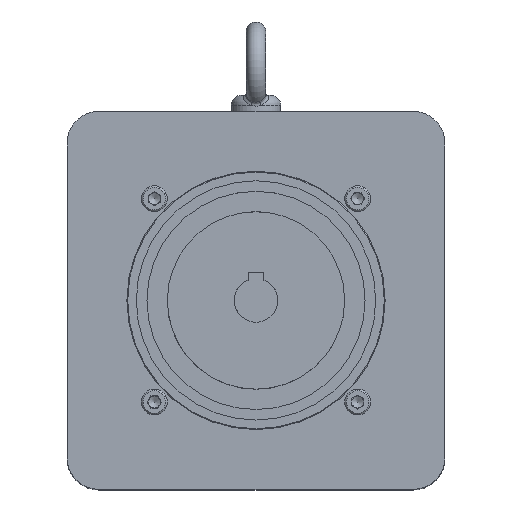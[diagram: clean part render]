
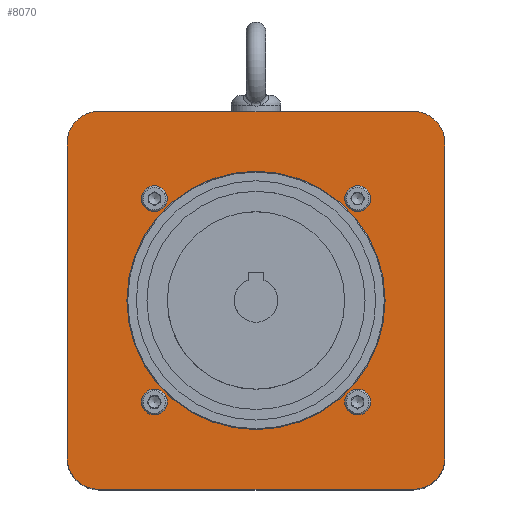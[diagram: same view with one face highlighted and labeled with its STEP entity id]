
A CAD part, top view. The second image highlights one B-rep face of the part: STEP entity #8070.
In plain terms, the highlighted planar face has unit normal (0, 0, 1).
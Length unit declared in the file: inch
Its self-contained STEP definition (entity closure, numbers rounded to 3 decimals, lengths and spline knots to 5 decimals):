
#436 = ORIENTED_EDGE ( 'NONE', *, *, #6717, .F. ) ;
#455 = DIRECTION ( 'NONE',  ( 0., 0., -1. ) ) ;
#689 = DIRECTION ( 'NONE',  ( 0., 0., -1. ) ) ;
#1022 = CARTESIAN_POINT ( 'NONE',  ( 3.75, -3.125, 14.3769 ) ) ;
#1066 = CIRCLE ( 'NONE', #11749, 2.5635 ) ;
#1155 = ORIENTED_EDGE ( 'NONE', *, *, #12031, .F. ) ;
#1205 = DIRECTION ( 'NONE',  ( -1., 0., 0. ) ) ;
#1606 = CARTESIAN_POINT ( 'NONE',  ( 3.125, 3.75, 14.3769 ) ) ;
#1687 = CARTESIAN_POINT ( 'NONE',  ( -3.125, -3.125, 14.3769 ) ) ;
#1702 = LINE ( 'NONE', #4293, #16422 ) ;
#1787 = FACE_BOUND ( 'NONE', #9494, .T. ) ;
#1898 = CARTESIAN_POINT ( 'NONE',  ( -2.01833, 2.01833, 14.3769 ) ) ;
#1994 = DIRECTION ( 'NONE',  ( 0., 1., 0. ) ) ;
#2380 = CARTESIAN_POINT ( 'NONE',  ( -3.75, -3.125, 14.3769 ) ) ;
#2421 = EDGE_CURVE ( 'NONE', #15767, #15767, #9370, .T. ) ;
#2440 = CARTESIAN_POINT ( 'NONE',  ( -3.125, 3.125, 14.3769 ) ) ;
#2465 = EDGE_LOOP ( 'NONE', ( #6272, #436, #1155, #9198, #4838, #3238, #8516, #6602 ) ) ;
#2497 = VERTEX_POINT ( 'NONE', #1022 ) ;
#2680 = AXIS2_PLACEMENT_3D ( 'NONE', #9768, #9677, #8155 ) ;
#2829 = VERTEX_POINT ( 'NONE', #5113 ) ;
#2923 = EDGE_CURVE ( 'NONE', #12626, #12626, #10909, .T. ) ;
#2946 = AXIS2_PLACEMENT_3D ( 'NONE', #1898, #9250, #7727 ) ;
#2962 = AXIS2_PLACEMENT_3D ( 'NONE', #17532, #5961, #12939 ) ;
#3073 = VERTEX_POINT ( 'NONE', #13696 ) ;
#3153 = AXIS2_PLACEMENT_3D ( 'NONE', #14281, #4051, #15706 ) ;
#3215 = LINE ( 'NONE', #9057, #16087 ) ;
#3238 = ORIENTED_EDGE ( 'NONE', *, *, #7092, .F. ) ;
#3323 = EDGE_CURVE ( 'NONE', #11682, #4024, #6035, .T. ) ;
#4024 = VERTEX_POINT ( 'NONE', #15317 ) ;
#4051 = DIRECTION ( 'NONE',  ( 0., 0., -1. ) ) ;
#4270 = LINE ( 'NONE', #17459, #8520 ) ;
#4293 = CARTESIAN_POINT ( 'NONE',  ( 3.125, -3.75, 14.3769 ) ) ;
#4419 = EDGE_CURVE ( 'NONE', #5725, #5725, #8418, .T. ) ;
#4420 = ORIENTED_EDGE ( 'NONE', *, *, #4419, .T. ) ;
#4504 = ORIENTED_EDGE ( 'NONE', *, *, #14582, .F. ) ;
#4651 = FACE_OUTER_BOUND ( 'NONE', #2465, .T. ) ;
#4659 = DIRECTION ( 'NONE',  ( 0., 1., 0. ) ) ;
#4836 = DIRECTION ( 'NONE',  ( 0., 0., 1. ) ) ;
#4838 = ORIENTED_EDGE ( 'NONE', *, *, #3323, .F. ) ;
#5113 = CARTESIAN_POINT ( 'NONE',  ( -3.125, -3.75, 14.3769 ) ) ;
#5422 = VECTOR ( 'NONE', #7021, 39.37008 ) ;
#5637 = AXIS2_PLACEMENT_3D ( 'NONE', #13783, #689, #6231 ) ;
#5725 = VERTEX_POINT ( 'NONE', #11662 ) ;
#5770 = CARTESIAN_POINT ( 'NONE',  ( 3.75, 3.125, 14.3769 ) ) ;
#5798 = FACE_BOUND ( 'NONE', #16758, .T. ) ;
#5831 = EDGE_CURVE ( 'NONE', #16306, #3073, #3215, .T. ) ;
#5836 = VERTEX_POINT ( 'NONE', #18744 ) ;
#5876 = CARTESIAN_POINT ( 'NONE',  ( 3.125, -3.75, 14.3769 ) ) ;
#5961 = DIRECTION ( 'NONE',  ( 0., 0., -1. ) ) ;
#6035 = CIRCLE ( 'NONE', #2680, 0.625 ) ;
#6231 = DIRECTION ( 'NONE',  ( -1., 0., 0. ) ) ;
#6272 = ORIENTED_EDGE ( 'NONE', *, *, #14780, .F. ) ;
#6283 = DIRECTION ( 'NONE',  ( 0., -1., 0. ) ) ;
#6364 = CIRCLE ( 'NONE', #8818, 0.625 ) ;
#6602 = ORIENTED_EDGE ( 'NONE', *, *, #5831, .F. ) ;
#6681 = DIRECTION ( 'NONE',  ( 0., 0., -1. ) ) ;
#6717 = EDGE_CURVE ( 'NONE', #15360, #2829, #1702, .T. ) ;
#7021 = DIRECTION ( 'NONE',  ( 0., -1., 0. ) ) ;
#7092 = EDGE_CURVE ( 'NONE', #13122, #11682, #4270, .T. ) ;
#7421 = EDGE_CURVE ( 'NONE', #4024, #2497, #10073, .T. ) ;
#7475 = CIRCLE ( 'NONE', #5637, 0.625 ) ;
#7491 = AXIS2_PLACEMENT_3D ( 'NONE', #7723, #455, #6283 ) ;
#7616 = DIRECTION ( 'NONE',  ( 1., 0., 0. ) ) ;
#7723 = CARTESIAN_POINT ( 'NONE',  ( -2.01833, -2.01833, 14.3769 ) ) ;
#7727 = DIRECTION ( 'NONE',  ( -1., 0., 0. ) ) ;
#8070 = ADVANCED_FACE ( 'NONE', ( #1787, #17467, #14778, #10473, #5798, #4651 ), #12012, .F. ) ;
#8155 = DIRECTION ( 'NONE',  ( -1., 0., 0. ) ) ;
#8278 = DIRECTION ( 'NONE',  ( 0., 0., -1. ) ) ;
#8317 = CARTESIAN_POINT ( 'NONE',  ( 2.17583, -2.01833, 14.3769 ) ) ;
#8418 = CIRCLE ( 'NONE', #7491, 0.1575 ) ;
#8467 = EDGE_CURVE ( 'NONE', #3073, #13122, #6364, .T. ) ;
#8516 = ORIENTED_EDGE ( 'NONE', *, *, #8467, .F. ) ;
#8520 = VECTOR ( 'NONE', #15921, 39.37008 ) ;
#8818 = AXIS2_PLACEMENT_3D ( 'NONE', #2440, #8278, #1205 ) ;
#9057 = CARTESIAN_POINT ( 'NONE',  ( -3.75, -3.125, 14.3769 ) ) ;
#9198 = ORIENTED_EDGE ( 'NONE', *, *, #7421, .F. ) ;
#9250 = DIRECTION ( 'NONE',  ( 0., 0., -1. ) ) ;
#9370 = CIRCLE ( 'NONE', #2946, 0.1575 ) ;
#9494 = EDGE_LOOP ( 'NONE', ( #15722 ) ) ;
#9677 = DIRECTION ( 'NONE',  ( 0., 0., -1. ) ) ;
#9707 = AXIS2_PLACEMENT_3D ( 'NONE', #1687, #16300, #16210 ) ;
#9768 = CARTESIAN_POINT ( 'NONE',  ( 3.125, 3.125, 14.3769 ) ) ;
#10023 = DIRECTION ( 'NONE',  ( -1., 0., 0. ) ) ;
#10073 = LINE ( 'NONE', #5770, #5422 ) ;
#10473 = FACE_BOUND ( 'NONE', #11053, .T. ) ;
#10699 = CARTESIAN_POINT ( 'NONE',  ( 2.01833, 2.01833, 14.3769 ) ) ;
#10790 = VERTEX_POINT ( 'NONE', #13842 ) ;
#10909 = CIRCLE ( 'NONE', #2962, 0.1575 ) ;
#10940 = EDGE_LOOP ( 'NONE', ( #4420 ) ) ;
#11053 = EDGE_LOOP ( 'NONE', ( #12901 ) ) ;
#11408 = CIRCLE ( 'NONE', #3153, 0.625 ) ;
#11662 = CARTESIAN_POINT ( 'NONE',  ( -2.01833, -2.17583, 14.3769 ) ) ;
#11682 = VERTEX_POINT ( 'NONE', #1606 ) ;
#11749 = AXIS2_PLACEMENT_3D ( 'NONE', #15050, #4836, #7616 ) ;
#12012 = PLANE ( 'NONE',  #9707 ) ;
#12031 = EDGE_CURVE ( 'NONE', #2497, #15360, #11408, .T. ) ;
#12289 = EDGE_LOOP ( 'NONE', ( #15389 ) ) ;
#12312 = CARTESIAN_POINT ( 'NONE',  ( -3.125, 3.75, 14.3769 ) ) ;
#12626 = VERTEX_POINT ( 'NONE', #8317 ) ;
#12901 = ORIENTED_EDGE ( 'NONE', *, *, #2421, .T. ) ;
#12939 = DIRECTION ( 'NONE',  ( 1., 0., 0. ) ) ;
#13122 = VERTEX_POINT ( 'NONE', #12312 ) ;
#13135 = CIRCLE ( 'NONE', #18022, 0.1575 ) ;
#13696 = CARTESIAN_POINT ( 'NONE',  ( -3.75, 3.125, 14.3769 ) ) ;
#13783 = CARTESIAN_POINT ( 'NONE',  ( -3.125, -3.125, 14.3769 ) ) ;
#13842 = CARTESIAN_POINT ( 'NONE',  ( 2.01833, 2.17583, 14.3769 ) ) ;
#14281 = CARTESIAN_POINT ( 'NONE',  ( 3.125, -3.125, 14.3769 ) ) ;
#14582 = EDGE_CURVE ( 'NONE', #5836, #5836, #1066, .T. ) ;
#14778 = FACE_BOUND ( 'NONE', #10940, .T. ) ;
#14780 = EDGE_CURVE ( 'NONE', #2829, #16306, #7475, .T. ) ;
#15050 = CARTESIAN_POINT ( 'NONE',  ( 0., 0., 14.3769 ) ) ;
#15317 = CARTESIAN_POINT ( 'NONE',  ( 3.75, 3.125, 14.3769 ) ) ;
#15360 = VERTEX_POINT ( 'NONE', #5876 ) ;
#15389 = ORIENTED_EDGE ( 'NONE', *, *, #2923, .T. ) ;
#15706 = DIRECTION ( 'NONE',  ( -1., 0., 0. ) ) ;
#15722 = ORIENTED_EDGE ( 'NONE', *, *, #18682, .T. ) ;
#15767 = VERTEX_POINT ( 'NONE', #18454 ) ;
#15921 = DIRECTION ( 'NONE',  ( 1., 0., 0. ) ) ;
#16087 = VECTOR ( 'NONE', #4659, 39.37008 ) ;
#16210 = DIRECTION ( 'NONE',  ( -1., 0., 0. ) ) ;
#16300 = DIRECTION ( 'NONE',  ( 0., 0., -1. ) ) ;
#16306 = VERTEX_POINT ( 'NONE', #2380 ) ;
#16422 = VECTOR ( 'NONE', #10023, 39.37008 ) ;
#16758 = EDGE_LOOP ( 'NONE', ( #4504 ) ) ;
#17459 = CARTESIAN_POINT ( 'NONE',  ( -3.125, 3.75, 14.3769 ) ) ;
#17467 = FACE_BOUND ( 'NONE', #12289, .T. ) ;
#17532 = CARTESIAN_POINT ( 'NONE',  ( 2.01833, -2.01833, 14.3769 ) ) ;
#18022 = AXIS2_PLACEMENT_3D ( 'NONE', #10699, #6681, #1994 ) ;
#18454 = CARTESIAN_POINT ( 'NONE',  ( -2.17583, 2.01833, 14.3769 ) ) ;
#18682 = EDGE_CURVE ( 'NONE', #10790, #10790, #13135, .T. ) ;
#18744 = CARTESIAN_POINT ( 'NONE',  ( 2.5635, 0., 14.3769 ) ) ;
